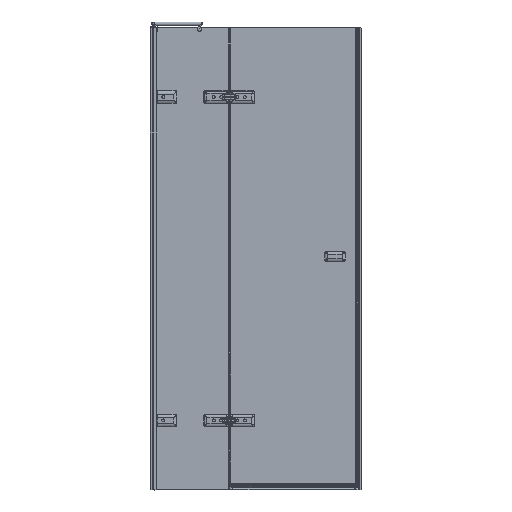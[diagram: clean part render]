
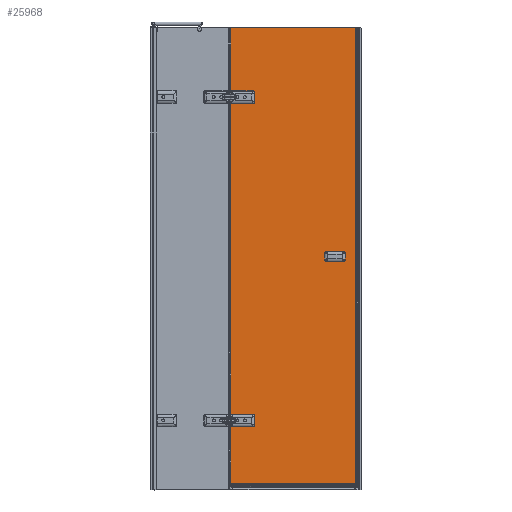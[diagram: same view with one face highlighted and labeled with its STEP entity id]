
A CAD part, left-side view. The second image highlights one B-rep face of the part: STEP entity #25968.
In plain terms, the highlighted planar face has unit normal (-1, 0, 0).
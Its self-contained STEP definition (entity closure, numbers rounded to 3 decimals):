
#258=FACE_BOUND($,#4311,.T.);
#259=FACE_BOUND($,#4312,.T.);
#260=FACE_BOUND($,#4313,.T.);
#912=CIRCLE($,#27012,6.5);
#1087=CIRCLE($,#27449,6.5);
#1324=CIRCLE($,#28102,10.);
#1325=CIRCLE($,#28103,10.);
#1326=CIRCLE($,#28104,10.);
#1327=CIRCLE($,#28105,10.);
#4311=EDGE_LOOP($,(#20709));
#4312=EDGE_LOOP($,(#20710));
#4313=EDGE_LOOP($,(#20711,#20712,#20713,#20714,#20715,#20716,#20717,#20718,
#20719,#20720,#20721,#20722,#20723,#20724,#20725,#20726));
#5213=LINE($,#37131,#7469);
#5699=LINE($,#53510,#7955);
#6179=LINE($,#55800,#8435);
#6746=LINE($,#59425,#9002);
#6747=LINE($,#59429,#9003);
#6748=LINE($,#59432,#9004);
#6749=LINE($,#59434,#9005);
#6750=LINE($,#59438,#9006);
#6751=LINE($,#59442,#9007);
#6752=LINE($,#59444,#9008);
#6753=LINE($,#59446,#9009);
#6754=LINE($,#59447,#9010);
#7469=VECTOR($,#29076,547.226);
#7955=VECTOR($,#30826,1362.);
#8435=VECTOR($,#32178,281.);
#9002=VECTOR($,#33695,29.226);
#9003=VECTOR($,#33698,18.);
#9004=VECTOR($,#33701,29.226);
#9005=VECTOR($,#33702,29.226);
#9006=VECTOR($,#33705,18.);
#9007=VECTOR($,#33708,29.226);
#9008=VECTOR($,#33709,256.4);
#9009=VECTOR($,#33710,547.226);
#9010=VECTOR($,#33711,1975.4);
#9786=VERTEX_POINT($,#37128);
#9787=VERTEX_POINT($,#37130);
#10305=VERTEX_POINT($,#52702);
#10469=VERTEX_POINT($,#53507);
#10470=VERTEX_POINT($,#53509);
#10791=VERTEX_POINT($,#55000);
#10952=VERTEX_POINT($,#55798);
#11537=VERTEX_POINT($,#59424);
#11538=VERTEX_POINT($,#59426);
#11539=VERTEX_POINT($,#59428);
#11540=VERTEX_POINT($,#59430);
#11541=VERTEX_POINT($,#59433);
#11542=VERTEX_POINT($,#59435);
#11543=VERTEX_POINT($,#59437);
#11544=VERTEX_POINT($,#59439);
#11545=VERTEX_POINT($,#59441);
#11546=VERTEX_POINT($,#59443);
#11547=VERTEX_POINT($,#59445);
#12130=EDGE_CURVE($,#9787,#9786,#5213,.T.);
#12850=EDGE_CURVE($,#10305,#10305,#912,.T.);
#13116=EDGE_CURVE($,#10469,#10470,#5699,.T.);
#13591=EDGE_CURVE($,#10791,#10791,#1087,.T.);
#13853=EDGE_CURVE($,#10952,#9786,#6179,.T.);
#14719=EDGE_CURVE($,#11537,#10952,#6746,.T.);
#14720=EDGE_CURVE($,#11537,#11538,#1324,.T.);
#14721=EDGE_CURVE($,#11539,#11538,#6747,.T.);
#14722=EDGE_CURVE($,#11539,#11540,#1325,.T.);
#14723=EDGE_CURVE($,#10470,#11540,#6748,.T.);
#14724=EDGE_CURVE($,#11541,#10469,#6749,.T.);
#14725=EDGE_CURVE($,#11541,#11542,#1326,.T.);
#14726=EDGE_CURVE($,#11543,#11542,#6750,.T.);
#14727=EDGE_CURVE($,#11543,#11544,#1327,.T.);
#14728=EDGE_CURVE($,#11545,#11544,#6751,.T.);
#14729=EDGE_CURVE($,#11546,#11545,#6752,.T.);
#14730=EDGE_CURVE($,#11546,#11547,#6753,.T.);
#14731=EDGE_CURVE($,#11547,#9787,#6754,.T.);
#20709=ORIENTED_EDGE($,*,*,#12850,.F.);
#20710=ORIENTED_EDGE($,*,*,#13591,.F.);
#20711=ORIENTED_EDGE($,*,*,#13853,.F.);
#20712=ORIENTED_EDGE($,*,*,#14719,.F.);
#20713=ORIENTED_EDGE($,*,*,#14720,.T.);
#20714=ORIENTED_EDGE($,*,*,#14721,.F.);
#20715=ORIENTED_EDGE($,*,*,#14722,.T.);
#20716=ORIENTED_EDGE($,*,*,#14723,.F.);
#20717=ORIENTED_EDGE($,*,*,#13116,.F.);
#20718=ORIENTED_EDGE($,*,*,#14724,.F.);
#20719=ORIENTED_EDGE($,*,*,#14725,.T.);
#20720=ORIENTED_EDGE($,*,*,#14726,.F.);
#20721=ORIENTED_EDGE($,*,*,#14727,.T.);
#20722=ORIENTED_EDGE($,*,*,#14728,.F.);
#20723=ORIENTED_EDGE($,*,*,#14729,.F.);
#20724=ORIENTED_EDGE($,*,*,#14730,.T.);
#20725=ORIENTED_EDGE($,*,*,#14731,.T.);
#20726=ORIENTED_EDGE($,*,*,#12130,.T.);
#23349=PLANE($,#28101);
#25968=ADVANCED_FACE($,(#258,#259,#260),#23349,.F.);
#27012=AXIS2_PLACEMENT_3D($,#52703,#30299,#30300);
#27449=AXIS2_PLACEMENT_3D($,#55001,#31656,#31657);
#28101=AXIS2_PLACEMENT_3D($,#59423,#33693,#33694);
#28102=AXIS2_PLACEMENT_3D($,#59427,#33696,#33697);
#28103=AXIS2_PLACEMENT_3D($,#59431,#33699,#33700);
#28104=AXIS2_PLACEMENT_3D($,#59436,#33703,#33704);
#28105=AXIS2_PLACEMENT_3D($,#59440,#33706,#33707);
#29076=DIRECTION($,(0.,1.,0.));
#30299=DIRECTION('center_axis',(-1.,0.,0.));
#30300=DIRECTION('ref_axis',(0.,1.,0.));
#30826=DIRECTION($,(0.,0.,1.));
#31656=DIRECTION('center_axis',(-1.,0.,0.));
#31657=DIRECTION('ref_axis',(0.,1.,0.));
#32178=DIRECTION($,(0.,0.,1.));
#33693=DIRECTION('center_axis',(1.,0.,0.));
#33694=DIRECTION('ref_axis',(0.,1.,0.));
#33695=DIRECTION($,(0.,1.,0.));
#33696=DIRECTION('center_axis',(1.,0.,0.));
#33697=DIRECTION('ref_axis',(0.,-0.707,0.707));
#33698=DIRECTION($,(0.,0.,1.));
#33699=DIRECTION('center_axis',(1.,0.,0.));
#33700=DIRECTION('ref_axis',(0.,-0.707,-0.707));
#33701=DIRECTION($,(0.,-1.,0.));
#33702=DIRECTION($,(0.,1.,0.));
#33703=DIRECTION('center_axis',(1.,0.,0.));
#33704=DIRECTION('ref_axis',(0.,-0.707,0.707));
#33705=DIRECTION($,(0.,0.,1.));
#33706=DIRECTION('center_axis',(1.,0.,0.));
#33707=DIRECTION('ref_axis',(0.,-0.707,-0.707));
#33708=DIRECTION($,(0.,-1.,0.));
#33709=DIRECTION($,(0.,0.,1.));
#33710=DIRECTION($,(0.,-1.,0.));
#33711=DIRECTION($,(0.,0.,1.));
#37128=CARTESIAN_POINT('',(1325.733,-514.418,1485.944));
#37130=CARTESIAN_POINT('',(1325.733,-1061.644,1485.944));
#37131=CARTESIAN_POINT($,(1325.733,-1061.644,1485.944));
#52702=CARTESIAN_POINT('',(1325.733,-583.144,-214.056));
#52703=CARTESIAN_POINT('Origin',(1325.733,-576.644,-214.056));
#53507=CARTESIAN_POINT('',(1325.733,-514.418,-195.056));
#53509=CARTESIAN_POINT('',(1325.733,-514.418,1166.944));
#53510=CARTESIAN_POINT($,(1325.733,-514.418,-204.056));
#55000=CARTESIAN_POINT('',(1325.733,-583.144,1185.944));
#55001=CARTESIAN_POINT('Origin',(1325.733,-576.644,1185.944));
#55798=CARTESIAN_POINT('',(1325.733,-514.418,1204.944));
#55800=CARTESIAN_POINT($,(1325.733,-514.418,1195.944));
#59423=CARTESIAN_POINT('Origin',(1325.733,-1061.644,-494.056));
#59424=CARTESIAN_POINT('',(1325.733,-543.644,1204.944));
#59425=CARTESIAN_POINT($,(1325.733,-786.644,1204.944));
#59426=CARTESIAN_POINT('',(1325.733,-553.644,1194.944));
#59427=CARTESIAN_POINT('Origin',(1325.733,-543.644,1194.944));
#59428=CARTESIAN_POINT('',(1325.733,-553.644,1176.944));
#59429=CARTESIAN_POINT($,(1325.733,-553.644,355.444));
#59430=CARTESIAN_POINT('',(1325.733,-543.644,1166.944));
#59431=CARTESIAN_POINT('Origin',(1325.733,-543.644,1176.944));
#59432=CARTESIAN_POINT($,(1325.733,-807.644,1166.944));
#59433=CARTESIAN_POINT('',(1325.733,-543.644,-195.056));
#59434=CARTESIAN_POINT($,(1325.733,-786.644,-195.056));
#59435=CARTESIAN_POINT('',(1325.733,-553.644,-205.056));
#59436=CARTESIAN_POINT('Origin',(1325.733,-543.644,-205.056));
#59437=CARTESIAN_POINT('',(1325.733,-553.644,-223.056));
#59438=CARTESIAN_POINT($,(1325.733,-553.644,-344.556));
#59439=CARTESIAN_POINT('',(1325.733,-543.644,-233.056));
#59440=CARTESIAN_POINT('Origin',(1325.733,-543.644,-223.056));
#59441=CARTESIAN_POINT('',(1325.733,-514.418,-233.056));
#59442=CARTESIAN_POINT($,(1325.733,-807.644,-233.056));
#59443=CARTESIAN_POINT('',(1325.733,-514.418,-489.456));
#59444=CARTESIAN_POINT($,(1325.733,-514.418,-224.056));
#59445=CARTESIAN_POINT('',(1325.733,-1061.644,-489.456));
#59446=CARTESIAN_POINT($,(1325.733,-511.644,-489.456));
#59447=CARTESIAN_POINT($,(1325.733,-1061.644,-494.056));
